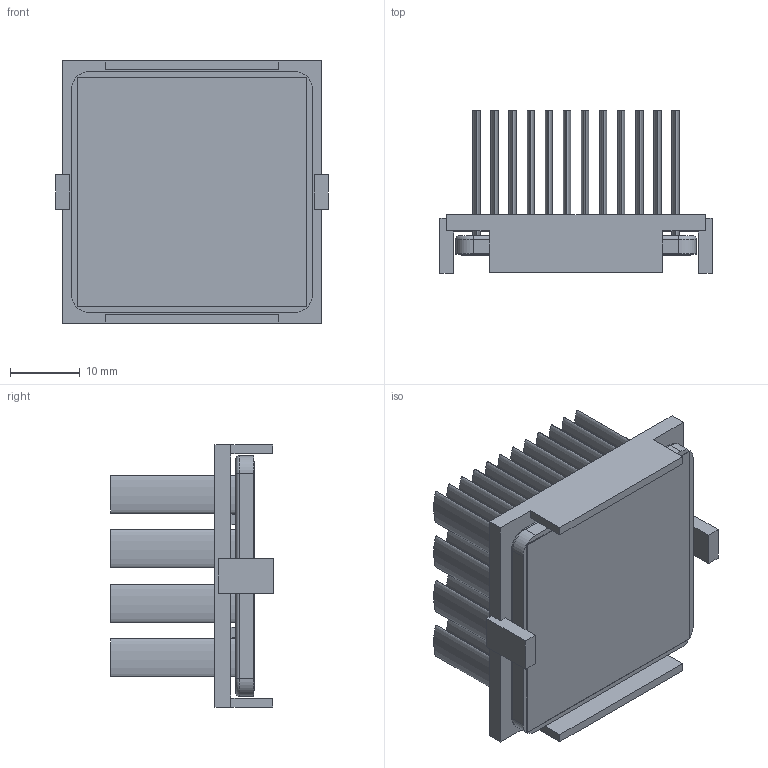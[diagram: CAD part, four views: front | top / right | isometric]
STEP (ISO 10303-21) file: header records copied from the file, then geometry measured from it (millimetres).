
FILE_DESCRIPTION (( 'STEP AP214' ), '1' );
FILE_NAME ('INM35001-21W-2.6K29.STEP', '2023-02-20T22:45:08', ( '' ), ( '' ), 'SwSTEP 2.0', 'SolidWorks 2020', '' );
FILE_SCHEMA (( 'AUTOMOTIVE_DESIGN' ));
Length unit declared in the file: inch
Products named in the file (1): INM35001-21W-2.6K29
Bounding box: 39.2 x 23.4 x 37.7 mm (x, y, z)
Volume: 8942.8 mm3; surface area: 17445.4 mm2
Topology: 3 solids, 3 shells, 222 faces, 496 edges, 328 vertices
Faces by surface type: plane 114, bspline 96, cylinder 8, torus 4
Entity records: 9276 total; most frequent: CARTESIAN_POINT 2295, ORIENTED_EDGE 992, DIRECTION 578, EDGE_CURVE 496, VERTEX_POINT 328, LINE 284, VECTOR 284, EDGE_LOOP 272
